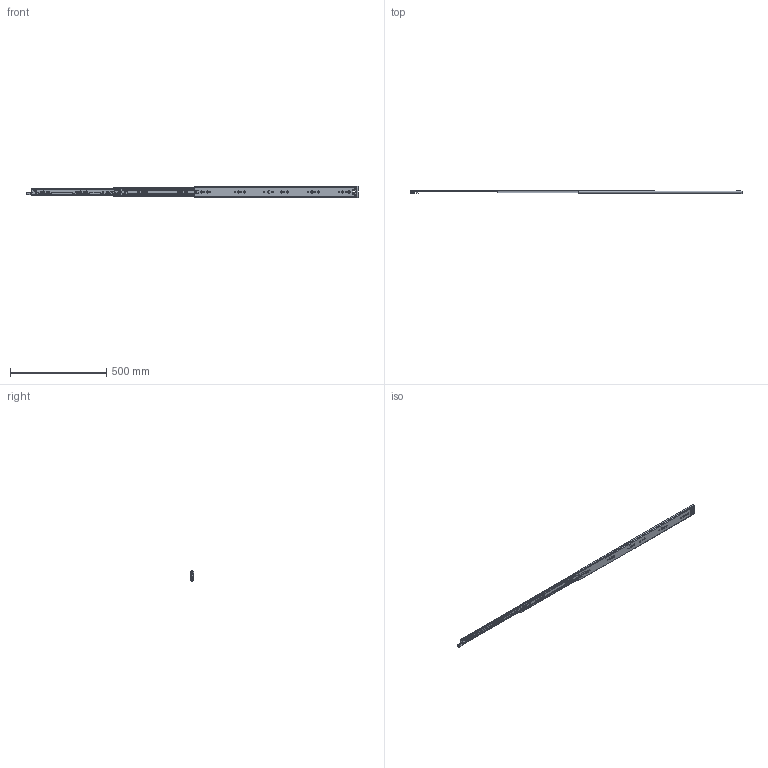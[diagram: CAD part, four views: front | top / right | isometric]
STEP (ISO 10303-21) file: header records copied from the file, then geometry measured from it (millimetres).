
FILE_DESCRIPTION((''),'2;1');
FILE_NAME('KP-57-01ZUZHUANGTU-34_ASM','2022-08-17T',('jishu015'),(''),'PRO/ENGINEER BY PARAMETRIC TECHNOLOGY CORPORATION, 2010280','PRO/ENGINEER BY PARAMETRIC TECHNOLOGY CORPORATION, 2010280','');
FILE_SCHEMA(('CONFIG_CONTROL_DESIGN'));
Products named in the file (22): KP-57-01WEIKE-18_________; 1057WEIJIAO_________; WAIKE________ASM; KP-57-01ZHONGGUI-18_________; ZHONGGUIPEIJIAN-11_______; ZHONGGUISUOKOU-11_______; KP-57-01ZHONGGUI-18__________ASM; 1057XIAOZHUJIA_________; 1057-5-6GANZHU_________; 1057XIAOZHUJIA-14GE__________ASM; KP-57-01NEIGUI-18_________; PJ-57-08_______; DIAOPIAN-11_______; 50XINSUOKOU-1_______; TANHUANG_______; 1053-3SBANJI122_____; JIAO11_____; KP-57-01NEIGUI-18__________ASM; 1053ZHUTIAO-175_____________; 53-5-6GANZHU_____________; 1053ZHUTIAO-175MM________ASM; KP-57-01ZUZHUANGTU-34_ASM
Assembly tree (95 placements, depth 3):
  KP-57-01ZUZHUANGTU-34_ASM
    WAIKE________ASM
      KP-57-01WEIKE-18_________
      1057WEIJIAO_________
    KP-57-01ZHONGGUI-18__________ASM
      KP-57-01ZHONGGUI-18_________
      ZHONGGUIPEIJIAN-11_______
      ZHONGGUISUOKOU-11_______
    1057XIAOZHUJIA-14GE__________ASM
      1057XIAOZHUJIA_________
      1057-5-6GANZHU_________  x60
    KP-57-01NEIGUI-18__________ASM
      KP-57-01NEIGUI-18_________
      PJ-57-08_______
      DIAOPIAN-11_______
      50XINSUOKOU-1_______
      TANHUANG_______
      1053-3SBANJI122_____
      JIAO11_____
    1053ZHUTIAO-175MM________ASM  x2
      1053ZHUTIAO-175_____________
      53-5-6GANZHU_____________
Bounding box: 1726.92 x 19 x 57.67 mm (x, y, z)
Volume: 371924.6 mm3; surface area: 405792.9 mm2
Topology: 108 solids, 108 shells, 2694 faces, 7771 edges, 4850 vertices
Faces by surface type: cylinder 1167, plane 1082, sphere 191, bspline 122, cone 84, torus 25, extrusion 23
Entity records: 86953 total; most frequent: CARTESIAN_POINT 21492, ORIENTED_EDGE 13862, DIRECTION 13480, EDGE_CURVE 6931, AXIS2_PLACEMENT_3D 4665, VERTEX_POINT 4478, VECTOR 4150, LINE 4127
